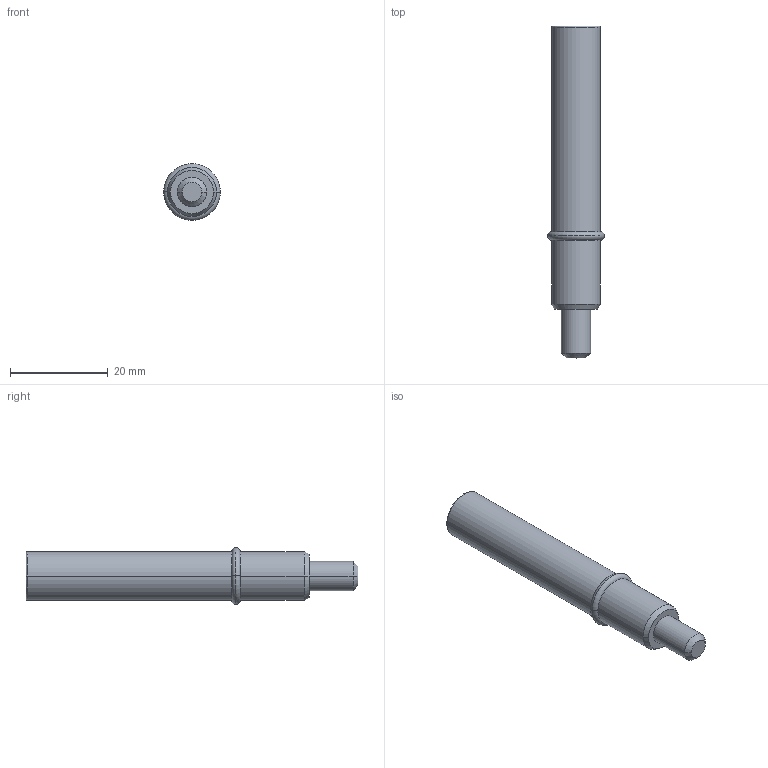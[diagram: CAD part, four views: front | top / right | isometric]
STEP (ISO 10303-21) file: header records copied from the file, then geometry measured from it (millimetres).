
FILE_DESCRIPTION (( 'STEP AP203' ), '1' );
FILE_NAME ('013.100.019.STEP', '2020-11-09T08:50:50', ( '' ), ( '' ), 'SwSTEP 2.0', 'SolidWorks 2018', '' );
FILE_SCHEMA (( 'CONFIG_CONTROL_DESIGN' ));
Length unit declared in the file: millimetre
Products named in the file (3): O-ring DIN 3771 - 8x1.8_O-ring DIN 3771 - 8x1.8; 013.100.019; 013.100.019A
Assembly tree (2 placements, depth 2):
  013.100.019
    013.100.019A
    O-ring DIN 3771 - 8x1.8_O-ring DIN 3771 - 8x1.8
Bounding box: 11.6 x 68 x 11.6 mm (x, y, z)
Volume: 4736.4 mm3; surface area: 2446.5 mm2
Topology: 2 solids, 2 shells, 30 faces, 62 edges, 38 vertices
Faces by surface type: plane 12, cylinder 8, torus 6, cone 4
Entity records: 1107 total; most frequent: DIRECTION 164, CARTESIAN_POINT 135, ORIENTED_EDGE 124, AXIS2_PLACEMENT_3D 67, EDGE_CURVE 62, VERTEX_POINT 38, EDGE_LOOP 34, CIRCLE 32
